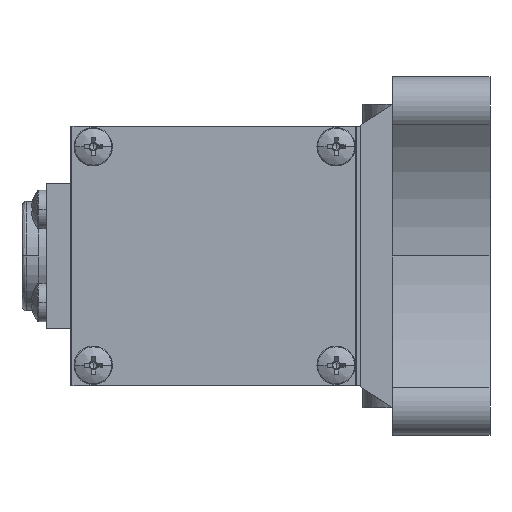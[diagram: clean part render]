
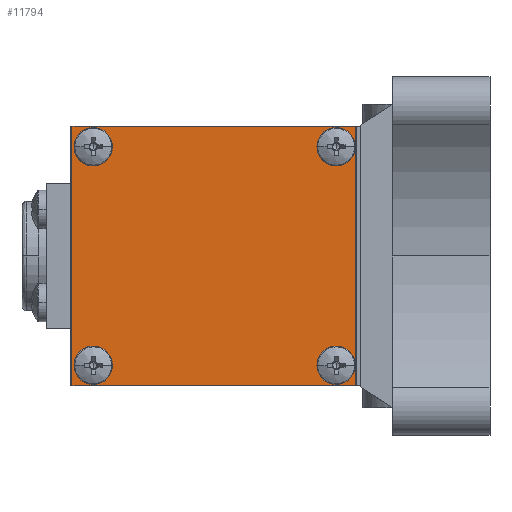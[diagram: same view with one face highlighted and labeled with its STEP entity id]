
A CAD part, left-side view. The second image highlights one B-rep face of the part: STEP entity #11794.
In plain terms, the highlighted planar face has unit normal (-1, 0, 0).
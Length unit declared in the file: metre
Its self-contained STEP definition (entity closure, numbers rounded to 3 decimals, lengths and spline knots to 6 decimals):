
#44 = EDGE_CURVE ( 'NONE', #3810, #14042, #17425, .T. ) ;
#86 = ORIENTED_EDGE ( 'NONE', *, *, #16171, .F. ) ;
#146 = CARTESIAN_POINT ( 'NONE',  ( -0.059, 0.00125, 0.032 ) ) ;
#391 = CARTESIAN_POINT ( 'NONE',  ( -0.059, 0.03625, -0.032 ) ) ;
#452 = ORIENTED_EDGE ( 'NONE', *, *, #44, .F. ) ;
#587 = DIRECTION ( 'NONE',  ( 0., 0., 1. ) ) ;
#671 = CIRCLE ( 'NONE', #14306, 0.0025 ) ;
#808 = DIRECTION ( 'NONE',  ( 0., -1., 0. ) ) ;
#924 = ORIENTED_EDGE ( 'NONE', *, *, #10685, .F. ) ;
#1399 = VERTEX_POINT ( 'NONE', #11186 ) ;
#1416 = VERTEX_POINT ( 'NONE', #12513 ) ;
#1512 = CARTESIAN_POINT ( 'NONE',  ( -0.059, 0.006, 0.027 ) ) ;
#1707 = DIRECTION ( 'NONE',  ( -1., 0., 0. ) ) ;
#2212 = EDGE_LOOP ( 'NONE', ( #6327, #4334 ) ) ;
#2386 = VECTOR ( 'NONE', #15595, 1. ) ;
#2590 = CARTESIAN_POINT ( 'NONE',  ( -0.059, 0.006, -0.027 ) ) ;
#2797 = AXIS2_PLACEMENT_3D ( 'NONE', #1512, #3325, #3911 ) ;
#2928 = DIRECTION ( 'NONE',  ( 0., 0., -1. ) ) ;
#3325 = DIRECTION ( 'NONE',  ( -1., 0., 0. ) ) ;
#3403 = LINE ( 'NONE', #391, #17937 ) ;
#3420 = EDGE_CURVE ( 'NONE', #8366, #13703, #11410, .T. ) ;
#3810 = VERTEX_POINT ( 'NONE', #13616 ) ;
#3911 = DIRECTION ( 'NONE',  ( 0., 0., 1. ) ) ;
#3978 = DIRECTION ( 'NONE',  ( -1., 0., 0. ) ) ;
#4334 = ORIENTED_EDGE ( 'NONE', *, *, #3420, .F. ) ;
#4424 = CARTESIAN_POINT ( 'NONE',  ( -0.059, 0.07125, -0.032 ) ) ;
#4729 = FACE_BOUND ( 'NONE', #5462, .T. ) ;
#4969 = AXIS2_PLACEMENT_3D ( 'NONE', #2590, #3978, #5350 ) ;
#5350 = DIRECTION ( 'NONE',  ( 0., 0., 1. ) ) ;
#5462 = EDGE_LOOP ( 'NONE', ( #452, #14208 ) ) ;
#5521 = AXIS2_PLACEMENT_3D ( 'NONE', #146, #11172, #2928 ) ;
#5925 = ORIENTED_EDGE ( 'NONE', *, *, #8868, .F. ) ;
#6076 = EDGE_CURVE ( 'NONE', #1416, #1399, #6164, .T. ) ;
#6164 = CIRCLE ( 'NONE', #2797, 0.0025 ) ;
#6233 = AXIS2_PLACEMENT_3D ( 'NONE', #6667, #16619, #8060 ) ;
#6327 = ORIENTED_EDGE ( 'NONE', *, *, #11879, .F. ) ;
#6336 = DIRECTION ( 'NONE',  ( -1., 0., 0. ) ) ;
#6438 = CARTESIAN_POINT ( 'NONE',  ( -0.059, 0.00125, 0. ) ) ;
#6667 = CARTESIAN_POINT ( 'NONE',  ( -0.059, 0.066, -0.027 ) ) ;
#7090 = CARTESIAN_POINT ( 'NONE',  ( -0.059, 0.066, 0.027 ) ) ;
#7098 = DIRECTION ( 'NONE',  ( -1., 0., 0. ) ) ;
#7119 = EDGE_LOOP ( 'NONE', ( #10638, #9993 ) ) ;
#7142 = DIRECTION ( 'NONE',  ( 0., 0., 1. ) ) ;
#7216 = DIRECTION ( 'NONE',  ( -1., 0., 0. ) ) ;
#7422 = ORIENTED_EDGE ( 'NONE', *, *, #17476, .F. ) ;
#7512 = FACE_OUTER_BOUND ( 'NONE', #11761, .T. ) ;
#8060 = DIRECTION ( 'NONE',  ( 0., 0., 1. ) ) ;
#8366 = VERTEX_POINT ( 'NONE', #10474 ) ;
#8389 = FACE_BOUND ( 'NONE', #2212, .T. ) ;
#8601 = DIRECTION ( 'NONE',  ( 0., 1., 0. ) ) ;
#8604 = CARTESIAN_POINT ( 'NONE',  ( -0.059, 0.00125, 0.032 ) ) ;
#8676 = VECTOR ( 'NONE', #17805, 1. ) ;
#8795 = DIRECTION ( 'NONE',  ( -1., 0., 0. ) ) ;
#8862 = CIRCLE ( 'NONE', #6233, 0.0025 ) ;
#8868 = EDGE_CURVE ( 'NONE', #9236, #12651, #12888, .T. ) ;
#9236 = VERTEX_POINT ( 'NONE', #8604 ) ;
#9350 = CARTESIAN_POINT ( 'NONE',  ( -0.059, 0.066, -0.0295 ) ) ;
#9432 = EDGE_CURVE ( 'NONE', #14042, #3810, #17607, .T. ) ;
#9700 = LINE ( 'NONE', #12622, #2386 ) ;
#9946 = CARTESIAN_POINT ( 'NONE',  ( -0.059, 0.006, 0.027 ) ) ;
#9993 = ORIENTED_EDGE ( 'NONE', *, *, #6076, .F. ) ;
#10474 = CARTESIAN_POINT ( 'NONE',  ( -0.059, 0.066, 0.0245 ) ) ;
#10638 = ORIENTED_EDGE ( 'NONE', *, *, #14368, .F. ) ;
#10685 = EDGE_CURVE ( 'NONE', #13246, #9236, #18010, .T. ) ;
#11069 = AXIS2_PLACEMENT_3D ( 'NONE', #15722, #7216, #17168 ) ;
#11172 = DIRECTION ( 'NONE',  ( 1., 0., 0. ) ) ;
#11186 = CARTESIAN_POINT ( 'NONE',  ( -0.059, 0.006, 0.0295 ) ) ;
#11362 = DIRECTION ( 'NONE',  ( 0., 0., 1. ) ) ;
#11410 = CIRCLE ( 'NONE', #17546, 0.0025 ) ;
#11761 = EDGE_LOOP ( 'NONE', ( #5925, #924, #17603, #16937 ) ) ;
#11794 = ADVANCED_FACE ( 'NONE', ( #15521, #8389, #4729, #15063, #7512 ), #13850, .F. ) ;
#11879 = EDGE_CURVE ( 'NONE', #13703, #8366, #13242, .T. ) ;
#11926 = CARTESIAN_POINT ( 'NONE',  ( -0.059, 0.006, -0.0295 ) ) ;
#11972 = AXIS2_PLACEMENT_3D ( 'NONE', #14800, #6336, #16231 ) ;
#12110 = CARTESIAN_POINT ( 'NONE',  ( -0.059, 0.066, -0.0245 ) ) ;
#12354 = VERTEX_POINT ( 'NONE', #4424 ) ;
#12513 = CARTESIAN_POINT ( 'NONE',  ( -0.059, 0.006, 0.0245 ) ) ;
#12622 = CARTESIAN_POINT ( 'NONE',  ( -0.059, 0.07125, 0. ) ) ;
#12651 = VERTEX_POINT ( 'NONE', #15075 ) ;
#12676 = CARTESIAN_POINT ( 'NONE',  ( -0.059, 0.07125, 0.032 ) ) ;
#12888 = LINE ( 'NONE', #6438, #8676 ) ;
#13242 = CIRCLE ( 'NONE', #11069, 0.0025 ) ;
#13246 = VERTEX_POINT ( 'NONE', #12676 ) ;
#13616 = CARTESIAN_POINT ( 'NONE',  ( -0.059, 0.006, -0.0245 ) ) ;
#13703 = VERTEX_POINT ( 'NONE', #14233 ) ;
#13850 = PLANE ( 'NONE',  #5521 ) ;
#14042 = VERTEX_POINT ( 'NONE', #11926 ) ;
#14208 = ORIENTED_EDGE ( 'NONE', *, *, #9432, .F. ) ;
#14233 = CARTESIAN_POINT ( 'NONE',  ( -0.059, 0.066, 0.0295 ) ) ;
#14306 = AXIS2_PLACEMENT_3D ( 'NONE', #17368, #8795, #587 ) ;
#14368 = EDGE_CURVE ( 'NONE', #1399, #1416, #14560, .T. ) ;
#14384 = EDGE_CURVE ( 'NONE', #12651, #12354, #3403, .T. ) ;
#14560 = CIRCLE ( 'NONE', #16296, 0.0025 ) ;
#14593 = VERTEX_POINT ( 'NONE', #12110 ) ;
#14621 = VECTOR ( 'NONE', #808, 1. ) ;
#14778 = CARTESIAN_POINT ( 'NONE',  ( -0.059, 0.03625, 0.032 ) ) ;
#14800 = CARTESIAN_POINT ( 'NONE',  ( -0.059, 0.006, -0.027 ) ) ;
#15063 = FACE_BOUND ( 'NONE', #7119, .T. ) ;
#15075 = CARTESIAN_POINT ( 'NONE',  ( -0.059, 0.00125, -0.032 ) ) ;
#15521 = FACE_BOUND ( 'NONE', #16319, .T. ) ;
#15540 = VERTEX_POINT ( 'NONE', #9350 ) ;
#15595 = DIRECTION ( 'NONE',  ( 0., 0., 1. ) ) ;
#15722 = CARTESIAN_POINT ( 'NONE',  ( -0.059, 0.066, 0.027 ) ) ;
#16171 = EDGE_CURVE ( 'NONE', #15540, #14593, #8862, .T. ) ;
#16231 = DIRECTION ( 'NONE',  ( 0., 0., 1. ) ) ;
#16296 = AXIS2_PLACEMENT_3D ( 'NONE', #9946, #1707, #11362 ) ;
#16319 = EDGE_LOOP ( 'NONE', ( #7422, #86 ) ) ;
#16619 = DIRECTION ( 'NONE',  ( -1., 0., 0. ) ) ;
#16937 = ORIENTED_EDGE ( 'NONE', *, *, #14384, .F. ) ;
#17168 = DIRECTION ( 'NONE',  ( 0., 0., 1. ) ) ;
#17368 = CARTESIAN_POINT ( 'NONE',  ( -0.059, 0.066, -0.027 ) ) ;
#17425 = CIRCLE ( 'NONE', #4969, 0.0025 ) ;
#17476 = EDGE_CURVE ( 'NONE', #14593, #15540, #671, .T. ) ;
#17546 = AXIS2_PLACEMENT_3D ( 'NONE', #7090, #7098, #7142 ) ;
#17603 = ORIENTED_EDGE ( 'NONE', *, *, #17863, .F. ) ;
#17607 = CIRCLE ( 'NONE', #11972, 0.0025 ) ;
#17805 = DIRECTION ( 'NONE',  ( 0., 0., -1. ) ) ;
#17863 = EDGE_CURVE ( 'NONE', #12354, #13246, #9700, .T. ) ;
#17937 = VECTOR ( 'NONE', #8601, 1. ) ;
#18010 = LINE ( 'NONE', #14778, #14621 ) ;
